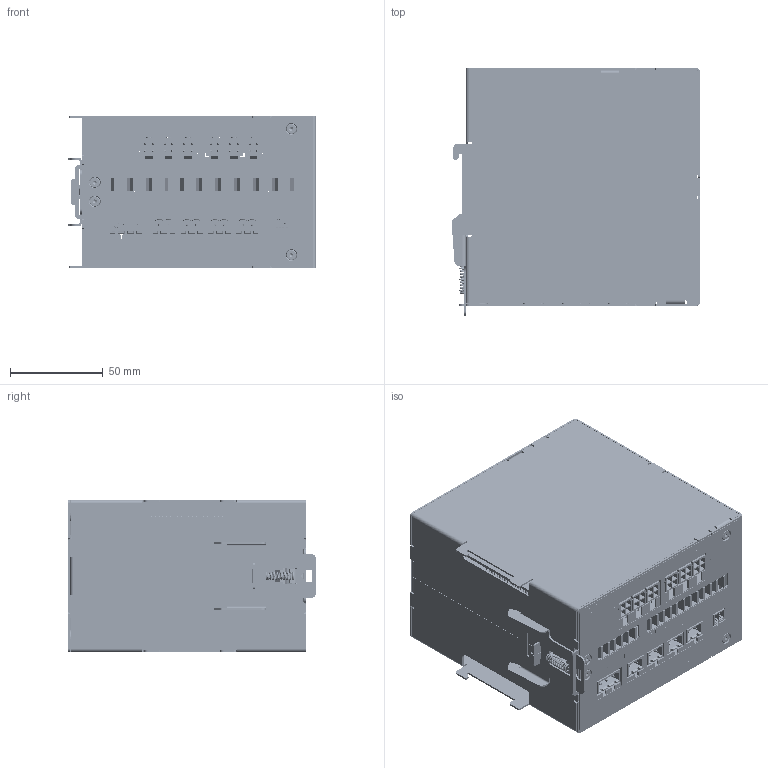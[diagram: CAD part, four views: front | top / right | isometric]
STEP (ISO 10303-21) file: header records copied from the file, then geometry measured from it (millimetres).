
FILE_DESCRIPTION (( 'STEP AP214' ), '1' );
FILE_NAME ('CB-MCMB-01.STEP', '2023-03-02T01:46:05', ( '' ), ( '' ), 'SwSTEP 2.0', 'SolidWorks 2019', '' );
FILE_SCHEMA (( 'AUTOMOTIVE_DESIGN' ));
Length unit declared in the file: millimetre
Products named in the file (1): CB-MCMB-01
Bounding box: 134.17 x 133.9 x 82 mm (x, y, z)
Volume: 188103.9 mm3; surface area: 343172.8 mm2
Topology: 143 solids, 143 shells, 24172 faces, 62560 edges, 40294 vertices
Faces by surface type: plane 18123, cylinder 3683, bspline 2034, cone 252, torus 72, sphere 8
Entity records: 1055160 total; most frequent: CARTESIAN_POINT 263905, ORIENTED_EDGE 125040, DIRECTION 110303, EDGE_CURVE 62520, VECTOR 49875, LINE 49875, VERTEX_POINT 40294, AXIS2_PLACEMENT_3D 30214
